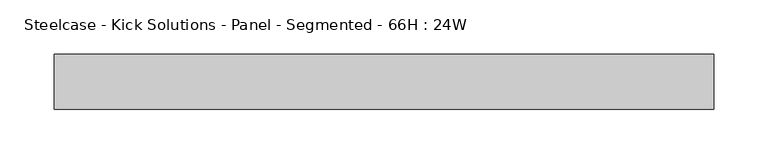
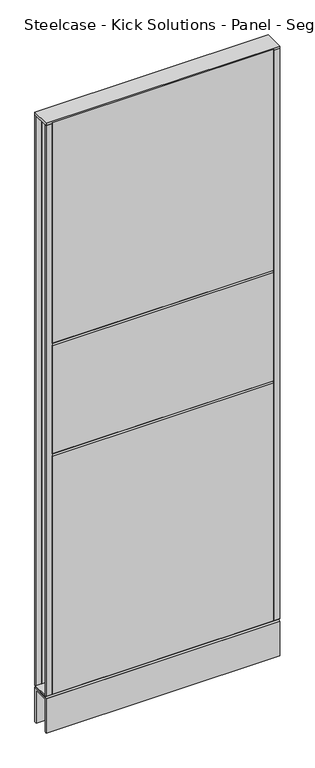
"""IFC4 building model written with IfcOpenShell, lengths in millimetres: furniture geometry, Steelcase - Kick Solutions - Panel - Segmented - 66H : 24W."""

from ifc_helpers import new_model, si_unit, frame, origin, place, context, project, spatial, polyline, outline, extrude, source, transform, mapped, element, save


def steelcase_kick_solutions_panel_segmented_66h_24w_2a49e8c7(model_context):
    return source(origin(), model_context, "Body", "SweptSolid", [
        extrude(outline(polyline([(1.5e-06, 101.600003), (-3.175, 101.600003), (-3.175, 1676.4), (1.5e-06, 1673.3188448), (1.5e-06, 101.600003)])), frame((15.8749996, 0.0, 0.0), z_axis=(1.0, 0.0, 0.0), x_axis=(0.0, 1.0, 0.0)), (0.0, 0.0, 1.0), 577.8500008),
        extrude(outline(polyline([(-50.8000015, 1069.8811552), (-50.8000015, 1679.448), (-47.625, 1676.4), (-47.625, 1066.8), (-50.8000015, 1069.8811552)])), frame((15.8749996, 0.0, 0.0), z_axis=(1.0, 0.0, 0.0), x_axis=(0.0, 1.0, 0.0)), (0.0, 0.0, 1.0), 577.8500008),
        extrude(outline(polyline([(-50.8000015, 765.0811552), (-50.8000015, 1063.7188448), (-47.625, 1066.8), (-47.625, 762.0), (-50.8000015, 765.0811552)])), frame((15.8749996, 0.0, 0.0), z_axis=(1.0, 0.0, 0.0), x_axis=(0.0, 1.0, 0.0)), (0.0, 0.0, 1.0), 577.8500008),
        extrude(outline(polyline([(-50.8000015, 101.600003), (-50.8000015, 758.9188448), (-47.625, 762.0), (-47.625, 101.600003), (-50.8000015, 101.600003)])), frame((15.8749996, 0.0, 0.0), z_axis=(1.0, 0.0, 0.0), x_axis=(0.0, 1.0, 0.0)), (0.0, 0.0, 1.0), 577.8500008),
        extrude(outline(polyline([(609.6, -3.1750015), (593.7250004, -3.1750015), (593.7250004, 0.0), (609.6, 0.0), (609.6, -3.1750015)])), frame((0.0, 0.0, 101.7169049), z_axis=(0.0, 0.0, 1.0), x_axis=(1.0, 0.0, 0.0)), (0.0, 0.0, 1.0), 1574.799997),
        extrude(outline(polyline([(15.8749996, -50.8000015), (0.0, -50.8000015), (0.0, -47.625), (15.8749996, -47.625), (15.8749996, -50.8000015)])), frame((0.0, 0.0, 101.7169049), z_axis=(0.0, 0.0, 1.0), x_axis=(1.0, 0.0, 0.0)), (0.0, 0.0, 1.0), 1574.799997),
        extrude(outline(polyline([(-50.7995075, 101.7169049), (-0.000494, 101.7169049), (-3.0583512, 98.5421458), (-47.7416503, 98.5421458), (-50.7995075, 101.7169049)])), frame((0.0, 0.0, 0.0), z_axis=(1.0, 0.0, 0.0), x_axis=(0.0, 1.0, 0.0)), (0.0, 0.0, 1.0), 609.6),
        extrude(outline(polyline([(609.6, 0.0), (609.6, -50.8000015), (0.0, -50.8000015), (0.0, 0.0), (609.6, 0.0)])), frame((0.0, 0.0, 1676.5169018), z_axis=(0.0, 0.0, 1.0), x_axis=(1.0, 0.0, 0.0)), (0.0, 0.0, 1.0), 6.35),
        extrude(outline(polyline([(15.8749996, -3.1750015), (0.0, -3.1750015), (0.0, 0.0), (15.8749996, 0.0), (15.8749996, -3.1750015)])), frame((0.0, 0.0, 101.7169049), z_axis=(0.0, 0.0, 1.0), x_axis=(1.0, 0.0, 0.0)), (0.0, 0.0, 1.0), 1574.799997),
        extrude(outline(polyline([(609.6, -50.8000015), (593.7250004, -50.8000015), (593.7250004, -47.625), (609.6, -47.625), (609.6, -50.8000015)])), frame((0.0, 0.0, 101.7169049), z_axis=(0.0, 0.0, 1.0), x_axis=(1.0, 0.0, 0.0)), (0.0, 0.0, 1.0), 1574.799997),
        extrude(outline(polyline([(-50.8000015, 95.3668927), (-47.6247484, 98.5421458), (-3.1752531, 98.5421458), (0.0, 95.3668927), (-50.8000015, 95.3668927)])), frame((0.0, 0.0, 0.0), z_axis=(1.0, 0.0, 0.0), x_axis=(0.0, 1.0, 0.0)), (0.0, 0.0, 1.0), 609.6),
        extrude(outline(polyline([(0.0, 0.0), (-5.08, 0.0), (-5.08, 90.2869018), (-45.7200015, 90.2869018), (-45.7200015, 0.0), (-50.8000015, 0.0), (-50.8000015, 95.3669018), (0.0, 95.3669018), (0.0, 0.0)])), frame((0.0, 0.0, 0.0), z_axis=(1.0, 0.0, 0.0), x_axis=(0.0, 1.0, 0.0)), (0.0, 0.0, 1.0), 609.6),
    ])


if __name__ == "__main__":
    model = new_model("IFC4")
    model_context = context("Model", 3, world=origin())
    ifc_project = project(units=[si_unit("LENGTHUNIT", "METRE", prefix="MILLI")], contexts=[model_context])
    site = spatial("IfcSite", under=ifc_project)
    building = spatial("IfcBuilding", under=site)
    placement = place(None, origin())
    steelcase_kick_solutions_panel_segmented_66h_24w_shape = steelcase_kick_solutions_panel_segmented_66h_24w_2a49e8c7(model_context)
    element("IfcFurniture", 1, ObjectType="Steelcase - Kick Solutions - Panel - Segmented - 66H : 24W", at=placement, inside=building, context=model_context, shape_type="MappedRepresentation", body=[
        mapped(steelcase_kick_solutions_panel_segmented_66h_24w_shape, transform((0.0, 0.0, 0.0), x_axis=(1.0, 0.0, 0.0), y_axis=(0.0, 1.0, 0.0), z_axis=(0.0, 0.0, 1.0))),
    ])
    save(model, "model.ifc")
